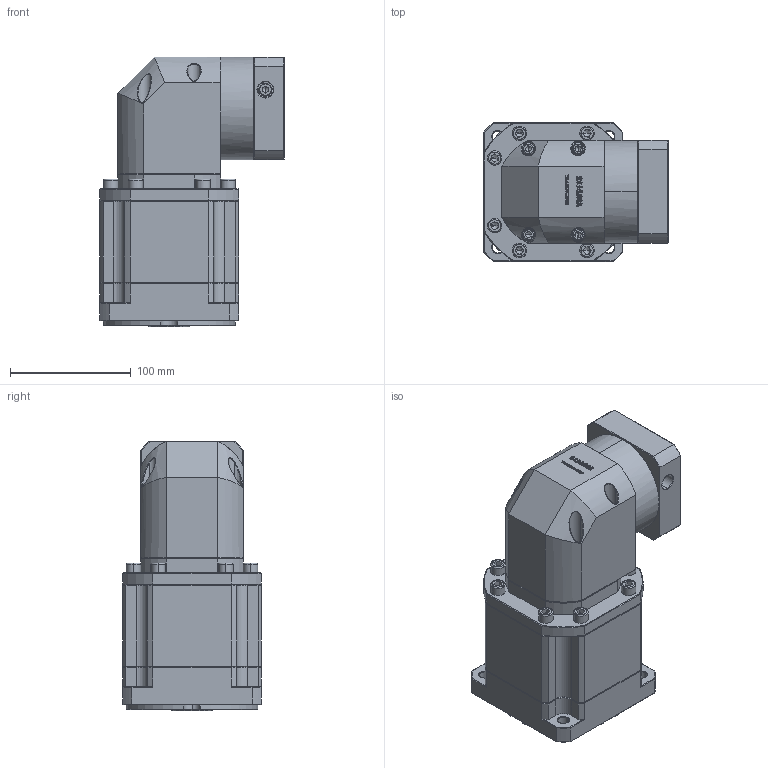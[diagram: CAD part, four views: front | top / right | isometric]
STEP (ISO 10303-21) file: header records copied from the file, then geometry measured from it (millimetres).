
FILE_DESCRIPTION (( 'STEP AP214' ), '1' );
FILE_NAME ('ZBR115A-K25-L3-14-73-69.5X69.5-M6.step', '2023-03-02T14:40:22', ( '' ), ( 'Microsoft' ), 'SwSTEP 2.0', 'SolidWorks 2016', '' );
FILE_SCHEMA (( 'AUTOMOTIVE_DESIGN' ));
Length unit declared in the file: millimetre
Products named in the file (1): ZBR115A-K25-L3-14-73-69.5X69.5-M6
Bounding box: 152.6 x 115 x 223.5 mm (x, y, z)
Volume: 2219508.8 mm3; surface area: 187018.8 mm2
Topology: 6 solids, 6 shells, 3142 faces, 8248 edges, 5257 vertices
Faces by surface type: plane 1694, bspline 624, cylinder 444, cone 366, torus 14
Entity records: 165326 total; most frequent: CARTESIAN_POINT 58233, ORIENTED_EDGE 16392, DIRECTION 12661, EDGE_CURVE 8196, LINE 5545, VECTOR 5545, VERTEX_POINT 5257, AXIS2_PLACEMENT_3D 3558
